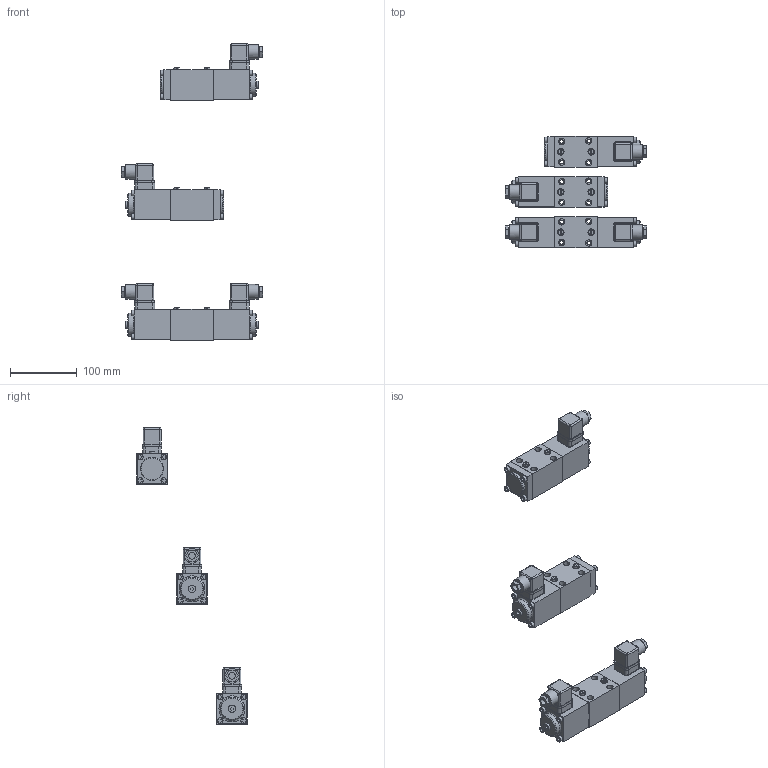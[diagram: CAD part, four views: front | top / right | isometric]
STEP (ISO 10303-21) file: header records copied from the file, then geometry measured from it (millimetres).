
FILE_DESCRIPTION(('Bauteilbeschreibung','HiCAD-Model','HiCAD-STEP-TRANSLATION','Bauteilbeschreibung'),'2;1');
FILE_NAME('K:/STEP_DXF/A_W4_6.STP','2006-07-28T09:47:43+00:00',('Konstrukteur'),('Konstrukteur Firma GmbH'),'HiCAD3 V1210 STEP 1.6.2005','HiCAD3 V1210','confidential');
FILE_SCHEMA(('AUTOMOTIVE_DESIGN { 1 2 10303 214 0 1 1 1 }'));
Length unit declared in the file: millimetre
Products named in the file (78): A_W4_6; A_W4D6; A9886579; AB294FE8; AF55A0CF; AF55A0CF0; A6B41859; F134825D; AE4B5AD6; CA9517B3; CA9517B30; DICHTUNG; IN6KTM5; IN6KTM50; IN6KTM51; IN6KTM52; IN6KTM53; IN6KTM54; IN6KTM55; IN6KTM56; IN6KTM57; IN6KTM58; A6B418590; F134825D0; AE4B5AD60; CA9517B31; CA9517B32; DICHTUNG0; D82DEE49; D82DEE490; A_W4Z6_A; B61D70E1; AB294FE80; AF55A0CF1; AF55A0CF2; A6B418591; F134825D1; AE4B5AD61; CA9517B33; CA9517B34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
Assembly tree (77 placements, depth 6):
  A_W4_6
    A_W4D6
      A9886579
        AB294FE8
        AF55A0CF
        AF55A0CF0
        A6B41859
          F134825D
          AE4B5AD6
          CA9517B3
          CA9517B30
            DICHTUNG
        IN6KTM5
          IN6KTM50
          IN6KTM51
          IN6KTM52
          IN6KTM53
        IN6KTM54
          IN6KTM55
          IN6KTM56
          IN6KTM57
          IN6KTM58
        A6B418590
          F134825D0
          AE4B5AD60
          CA9517B31
          CA9517B32
            DICHTUNG0
        D82DEE49
        D82DEE490
    A_W4Z6_A
      B61D70E1
        AB294FE80
        AF55A0CF1
        AF55A0CF2
        A6B418591
          F134825D1
          AE4B5AD61
          CA9517B33
          CA9517B34
            DICHTUNG1
        IN6KTM59
          IN6KTM510
          IN6KTM511
          IN6KTM512
          IN6KTM513
        D82DEE491
        F77E93F1
        F77E93F10
          IN6KTM514
            IN6KTM515
            IN6KTM516
            IN6KTM517
            IN6KTM518
    A_W4Z6_B
      AD8B0D23
        AB294FE81
        AF55A0CF3
        AF55A0CF4
        IN6KTM519
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Bounding box: 213 x 166 x 444.5 mm (x, y, z)
Volume: 1037952.3 mm3; surface area: 211807.7 mm2
Topology: 67 solids, 67 shells, 1048 faces, 2380 edges, 1586 vertices
Faces by surface type: plane 696, cylinder 308, cone 20, sphere 16, torus 8
Full cylindrical faces by diameter (mm): 1.5 x12, 3 x12, 4.9 x4, 5 x24, 5.5 x36, 6.5 x4, 6.8 x4, 8 x8, 8.5 x24, 9.5 x12, 9.8 x4, 10 x10, 11 x4, 12.5 x12, 13.6 x4, 15 x8, 22 x4, 26 x4, 35 x6
Entity records: 49071 total; most frequent: CARTESIAN_POINT 6004, DIRECTION 5060, ORIENTED_EDGE 4028, COLOUR_RGB 3117, PRESENTATION_STYLE_ASSIGNMENT 3117, OVER_RIDING_STYLED_ITEM 3062, CURVE_STYLE 2014, DRAUGHTING_PRE_DEFINED_CURVE_FONT 2014
